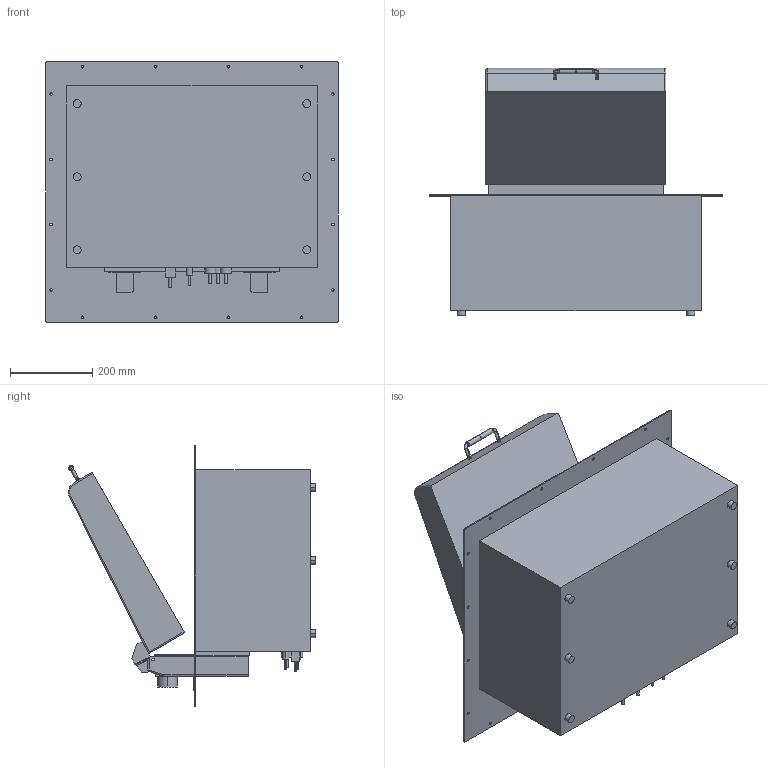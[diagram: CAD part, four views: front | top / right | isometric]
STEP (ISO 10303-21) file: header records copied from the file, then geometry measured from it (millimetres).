
FILE_DESCRIPTION((''),'2;1');
FILE_NAME('A-F-B3_ENVELOPE_ASM','2025-05-07T09:22:48',('bwaterworth'),(''),'CREO PARAMETRIC BY PTC INC, 2020354','CREO PARAMETRIC BY PTC INC, 2020354','');
FILE_SCHEMA(('CONFIG_CONTROL_DESIGN'));
Length unit declared in the file: inch
Products named in the file (6): A-F-B3_ENVELOPE; A-B-B3LID_ENVELOPE; 611534-1; 611534-2; 611534_ASM; A-F-B3_ENVELOPE_ASM
Assembly tree (5 placements, depth 3):
  A-F-B3_ENVELOPE_ASM
    A-F-B3_ENVELOPE
    A-B-B3LID_ENVELOPE
    611534_ASM
      611534-1
      611534-2
Bounding box: 711.2 x 602 x 635 mm (x, y, z)
Volume: 95594098.2 mm3; surface area: 2281563.9 mm2
Topology: 5 solids, 5 shells, 371 faces, 943 edges, 613 vertices
Faces by surface type: cylinder 181, plane 163, bspline 10, torus 7, cone 6, sphere 4
Entity records: 18161 total; most frequent: CARTESIAN_POINT 8938, ORIENTED_EDGE 1886, DIRECTION 1869, EDGE_CURVE 943, AXIS2_PLACEMENT_3D 667, VERTEX_POINT 613, VECTOR 535, LINE 535
